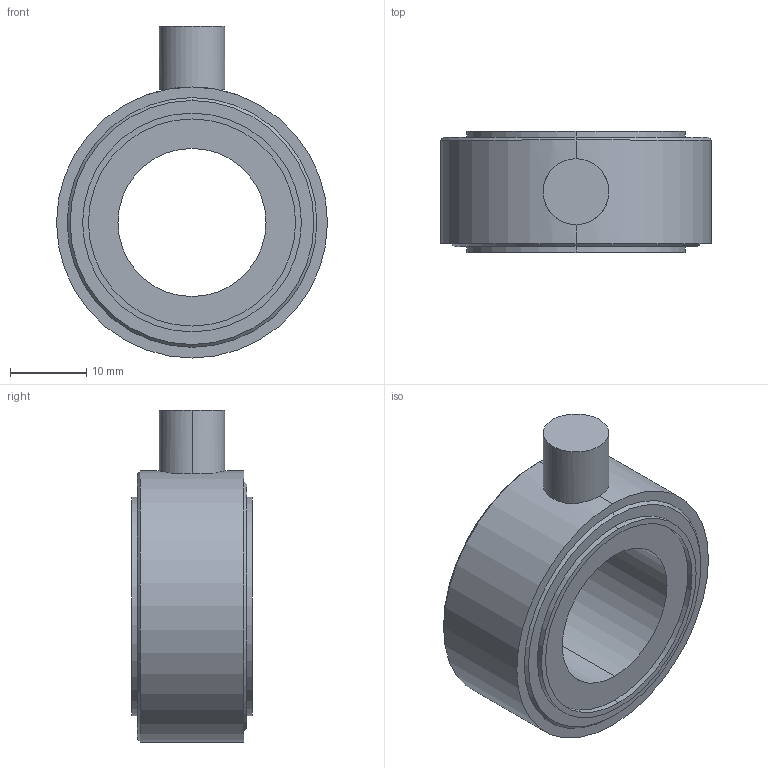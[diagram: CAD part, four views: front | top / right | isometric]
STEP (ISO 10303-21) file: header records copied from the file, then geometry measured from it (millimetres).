
FILE_DESCRIPTION (( 'STEP AP214' ), '1' );
FILE_NAME ('FINAL ASBY SS1431-2K.STEP', '2024-08-12T14:46:52', ( '' ), ( '' ), 'SwSTEP 2.0', 'SolidWorks 2008', '' );
FILE_SCHEMA (( 'AUTOMOTIVE_DESIGN' ));
Length unit declared in the file: inch
Products named in the file (1): FINAL ASBY SS1431-2K
Bounding box: 35.56 x 15.88 x 43.56 mm (x, y, z)
Volume: 10502.5 mm3; surface area: 4319.5 mm2
Topology: 1 solids, 1 shells, 28 faces, 61 edges, 40 vertices
Faces by surface type: cylinder 14, plane 10, cone 4
Entity records: 858 total; most frequent: CARTESIAN_POINT 180, DIRECTION 151, ORIENTED_EDGE 122, AXIS2_PLACEMENT_3D 65, EDGE_CURVE 61, VERTEX_POINT 40, CIRCLE 36, EDGE_LOOP 35
